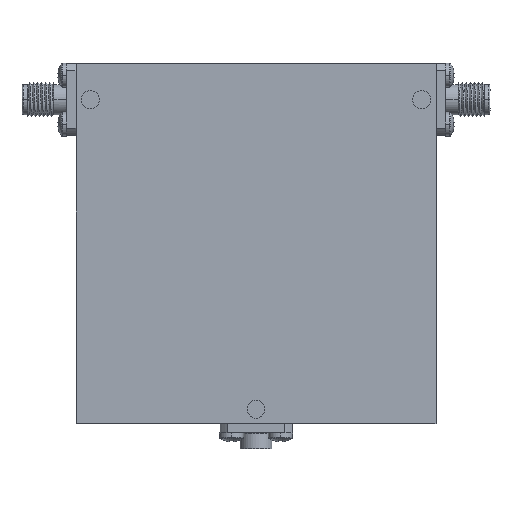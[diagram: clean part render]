
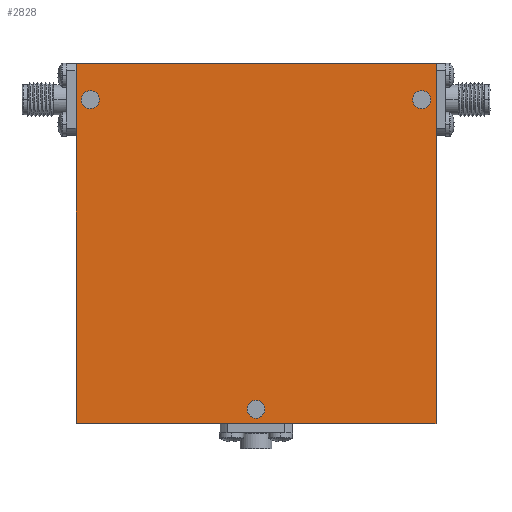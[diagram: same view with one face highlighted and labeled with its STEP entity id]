
A CAD part, top view. The second image highlights one B-rep face of the part: STEP entity #2828.
In plain terms, the highlighted planar face has unit normal (0, 0, 1).
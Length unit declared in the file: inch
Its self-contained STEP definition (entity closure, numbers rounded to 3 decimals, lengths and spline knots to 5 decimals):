
#72 = AXIS2_PLACEMENT_3D ( 'NONE', #2357, #919, #4629 ) ;
#81 = DIRECTION ( 'NONE',  ( 0., 0., 1. ) ) ;
#137 = FACE_OUTER_BOUND ( 'NONE', #3830, .T. ) ;
#186 = DIRECTION ( 'NONE',  ( 0., 0., 1. ) ) ;
#243 = AXIS2_PLACEMENT_3D ( 'NONE', #2024, #4634, #4652 ) ;
#266 = ORIENTED_EDGE ( 'NONE', *, *, #2809, .F. ) ;
#291 = DIRECTION ( 'NONE',  ( 1., 0., 0. ) ) ;
#295 = LINE ( 'NONE', #4220, #1560 ) ;
#297 = ORIENTED_EDGE ( 'NONE', *, *, #2253, .T. ) ;
#313 = DIRECTION ( 'NONE',  ( 0., 0., 1. ) ) ;
#319 = FACE_BOUND ( 'NONE', #1029, .T. ) ;
#378 = ORIENTED_EDGE ( 'NONE', *, *, #3147, .F. ) ;
#430 = CARTESIAN_POINT ( 'NONE',  ( 0.0625, -1.15, 0.275 ) ) ;
#541 = VERTEX_POINT ( 'NONE', #2187 ) ;
#547 = DIRECTION ( 'NONE',  ( 1., 0., 0. ) ) ;
#594 = LINE ( 'NONE', #4314, #2085 ) ;
#617 = ORIENTED_EDGE ( 'NONE', *, *, #1273, .T. ) ;
#644 = AXIS2_PLACEMENT_3D ( 'NONE', #3553, #186, #4729 ) ;
#670 = VERTEX_POINT ( 'NONE', #1146 ) ;
#725 = ORIENTED_EDGE ( 'NONE', *, *, #4096, .F. ) ;
#819 = EDGE_CURVE ( 'NONE', #2898, #1760, #1798, .T. ) ;
#919 = DIRECTION ( 'NONE',  ( 0., 0., 1. ) ) ;
#936 = CIRCLE ( 'NONE', #1779, 0.0625 ) ;
#987 = VECTOR ( 'NONE', #3031, 39.37008 ) ;
#1013 = CARTESIAN_POINT ( 'NONE',  ( -1.2125, 1., 0.275 ) ) ;
#1029 = EDGE_LOOP ( 'NONE', ( #725, #266 ) ) ;
#1146 = CARTESIAN_POINT ( 'NONE',  ( 1.0875, 1., 0.275 ) ) ;
#1160 = AXIS2_PLACEMENT_3D ( 'NONE', #2272, #81, #3027 ) ;
#1273 = EDGE_CURVE ( 'NONE', #1425, #3367, #594, .T. ) ;
#1292 = VERTEX_POINT ( 'NONE', #1832 ) ;
#1425 = VERTEX_POINT ( 'NONE', #1499 ) ;
#1468 = FACE_BOUND ( 'NONE', #2556, .T. ) ;
#1499 = CARTESIAN_POINT ( 'NONE',  ( 1.25, -1.25, 0.275 ) ) ;
#1560 = VECTOR ( 'NONE', #2699, 39.37008 ) ;
#1613 = CARTESIAN_POINT ( 'NONE',  ( -1.0875, 1., 0.275 ) ) ;
#1619 = VECTOR ( 'NONE', #2837, 39.37008 ) ;
#1665 = EDGE_CURVE ( 'NONE', #1292, #541, #295, .T. ) ;
#1760 = VERTEX_POINT ( 'NONE', #2776 ) ;
#1779 = AXIS2_PLACEMENT_3D ( 'NONE', #2502, #313, #291 ) ;
#1798 = CIRCLE ( 'NONE', #644, 0.0625 ) ;
#1832 = CARTESIAN_POINT ( 'NONE',  ( -1.25, 1.25, 0.275 ) ) ;
#1896 = VERTEX_POINT ( 'NONE', #1013 ) ;
#1912 = PLANE ( 'NONE',  #2402 ) ;
#2007 = EDGE_CURVE ( 'NONE', #670, #3443, #936, .T. ) ;
#2024 = CARTESIAN_POINT ( 'NONE',  ( 0., -1.15, 0.275 ) ) ;
#2051 = AXIS2_PLACEMENT_3D ( 'NONE', #4296, #4265, #547 ) ;
#2085 = VECTOR ( 'NONE', #2815, 39.37008 ) ;
#2187 = CARTESIAN_POINT ( 'NONE',  ( -1.25, -1.25, 0.275 ) ) ;
#2253 = EDGE_CURVE ( 'NONE', #3367, #1292, #2940, .T. ) ;
#2254 = DIRECTION ( 'NONE',  ( 0., 0., 1. ) ) ;
#2272 = CARTESIAN_POINT ( 'NONE',  ( -1.15, 1., 0.275 ) ) ;
#2314 = CARTESIAN_POINT ( 'NONE',  ( 0., 0., 0.275 ) ) ;
#2357 = CARTESIAN_POINT ( 'NONE',  ( 1.15, 1., 0.275 ) ) ;
#2402 = AXIS2_PLACEMENT_3D ( 'NONE', #2314, #2254, #2686 ) ;
#2502 = CARTESIAN_POINT ( 'NONE',  ( 1.15, 1., 0.275 ) ) ;
#2556 = EDGE_LOOP ( 'NONE', ( #378, #4696 ) ) ;
#2603 = LINE ( 'NONE', #3192, #1619 ) ;
#2686 = DIRECTION ( 'NONE',  ( 1., 0., 0. ) ) ;
#2699 = DIRECTION ( 'NONE',  ( 0., -1., 0. ) ) ;
#2701 = CARTESIAN_POINT ( 'NONE',  ( 1.2125, 1., 0.275 ) ) ;
#2703 = CARTESIAN_POINT ( 'NONE',  ( -1.25, 1.25, 0.275 ) ) ;
#2776 = CARTESIAN_POINT ( 'NONE',  ( -0.0625, -1.15, 0.275 ) ) ;
#2784 = CIRCLE ( 'NONE', #243, 0.0625 ) ;
#2809 = EDGE_CURVE ( 'NONE', #1896, #3028, #3908, .T. ) ;
#2815 = DIRECTION ( 'NONE',  ( 0., 1., 0. ) ) ;
#2828 = ADVANCED_FACE ( 'NONE', ( #1468, #4638, #319, #137 ), #1912, .T. ) ;
#2837 = DIRECTION ( 'NONE',  ( 1., 0., 0. ) ) ;
#2898 = VERTEX_POINT ( 'NONE', #430 ) ;
#2940 = LINE ( 'NONE', #2703, #987 ) ;
#2977 = ORIENTED_EDGE ( 'NONE', *, *, #819, .F. ) ;
#3027 = DIRECTION ( 'NONE',  ( 1., 0., 0. ) ) ;
#3028 = VERTEX_POINT ( 'NONE', #1613 ) ;
#3029 = CIRCLE ( 'NONE', #72, 0.0625 ) ;
#3031 = DIRECTION ( 'NONE',  ( -1., 0., 0. ) ) ;
#3071 = ORIENTED_EDGE ( 'NONE', *, *, #4104, .F. ) ;
#3147 = EDGE_CURVE ( 'NONE', #3443, #670, #3029, .T. ) ;
#3192 = CARTESIAN_POINT ( 'NONE',  ( -1.25, -1.25, 0.275 ) ) ;
#3263 = ORIENTED_EDGE ( 'NONE', *, *, #1665, .T. ) ;
#3367 = VERTEX_POINT ( 'NONE', #3396 ) ;
#3396 = CARTESIAN_POINT ( 'NONE',  ( 1.25, 1.25, 0.275 ) ) ;
#3443 = VERTEX_POINT ( 'NONE', #2701 ) ;
#3553 = CARTESIAN_POINT ( 'NONE',  ( 0., -1.15, 0.275 ) ) ;
#3830 = EDGE_LOOP ( 'NONE', ( #617, #297, #3263, #3976 ) ) ;
#3908 = CIRCLE ( 'NONE', #1160, 0.0625 ) ;
#3976 = ORIENTED_EDGE ( 'NONE', *, *, #4659, .T. ) ;
#4096 = EDGE_CURVE ( 'NONE', #3028, #1896, #4555, .T. ) ;
#4104 = EDGE_CURVE ( 'NONE', #1760, #2898, #2784, .T. ) ;
#4220 = CARTESIAN_POINT ( 'NONE',  ( -1.25, 1.25, 0.275 ) ) ;
#4265 = DIRECTION ( 'NONE',  ( 0., 0., 1. ) ) ;
#4296 = CARTESIAN_POINT ( 'NONE',  ( -1.15, 1., 0.275 ) ) ;
#4314 = CARTESIAN_POINT ( 'NONE',  ( 1.25, 1.25, 0.275 ) ) ;
#4456 = EDGE_LOOP ( 'NONE', ( #2977, #3071 ) ) ;
#4555 = CIRCLE ( 'NONE', #2051, 0.0625 ) ;
#4629 = DIRECTION ( 'NONE',  ( 1., 0., 0. ) ) ;
#4634 = DIRECTION ( 'NONE',  ( 0., 0., 1. ) ) ;
#4638 = FACE_BOUND ( 'NONE', #4456, .T. ) ;
#4652 = DIRECTION ( 'NONE',  ( 1., 0., 0. ) ) ;
#4659 = EDGE_CURVE ( 'NONE', #541, #1425, #2603, .T. ) ;
#4696 = ORIENTED_EDGE ( 'NONE', *, *, #2007, .F. ) ;
#4729 = DIRECTION ( 'NONE',  ( 1., 0., 0. ) ) ;
